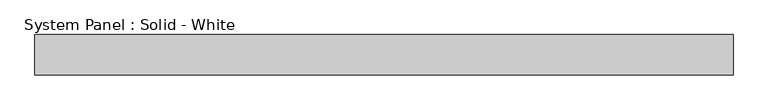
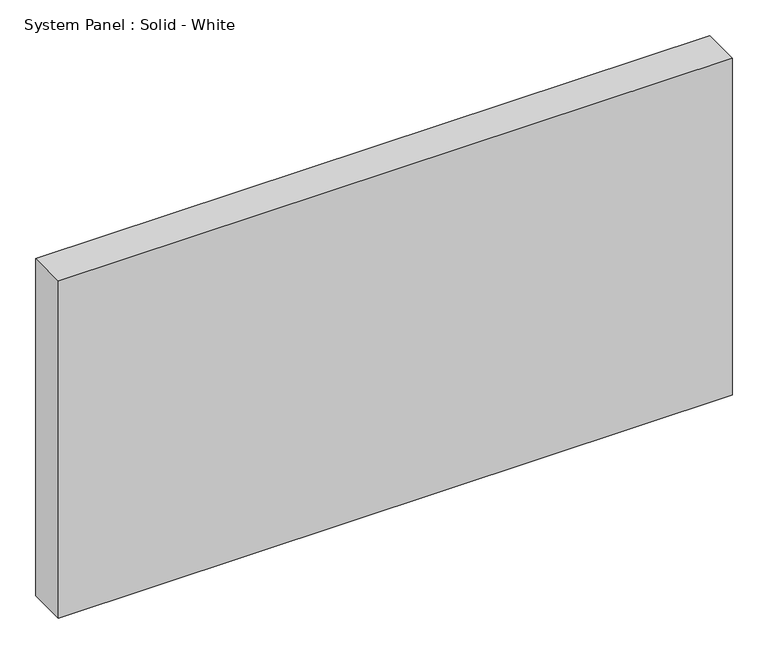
"""IFC4 building model written with IfcOpenShell, lengths in millimetres: plate geometry, System Panel : Solid - White."""

from ifc_helpers import new_model, si_unit, origin, origin_with_axes, place, context, project, spatial, polyline, outline, extrude, source, transform, mapped, element, save


def system_panel_solid_white_58560f43(model_context):
    return source(origin(), model_context, "Body", "SweptSolid", [
        extrude(outline(polyline([(546.4101089, -19.05), (-546.4101089, -19.05), (-546.4101089, 44.45), (546.4101089, 44.45), (546.4101089, -19.05)])), origin_with_axes(), (0.0, 0.0, 1.0), 577.85),
    ])


if __name__ == "__main__":
    model = new_model("IFC4")
    model_context = context("Model", 3, world=origin())
    ifc_project = project(units=[si_unit("LENGTHUNIT", "METRE", prefix="MILLI")], contexts=[model_context])
    site = spatial("IfcSite", under=ifc_project)
    building = spatial("IfcBuilding", under=site)
    placement = place(None, origin())
    system_panel_solid_white_shape = system_panel_solid_white_58560f43(model_context)
    element("IfcPlate", 1, ObjectType="System Panel : Solid - White", at=placement, inside=building, context=model_context, shape_type="MappedRepresentation", body=[
        mapped(system_panel_solid_white_shape, transform((0.0, 0.0, 0.0), x_axis=(1.0, 0.0, 0.0), y_axis=(0.0, 1.0, 0.0), z_axis=(0.0, 0.0, 1.0))),
    ])
    save(model, "model.ifc")
